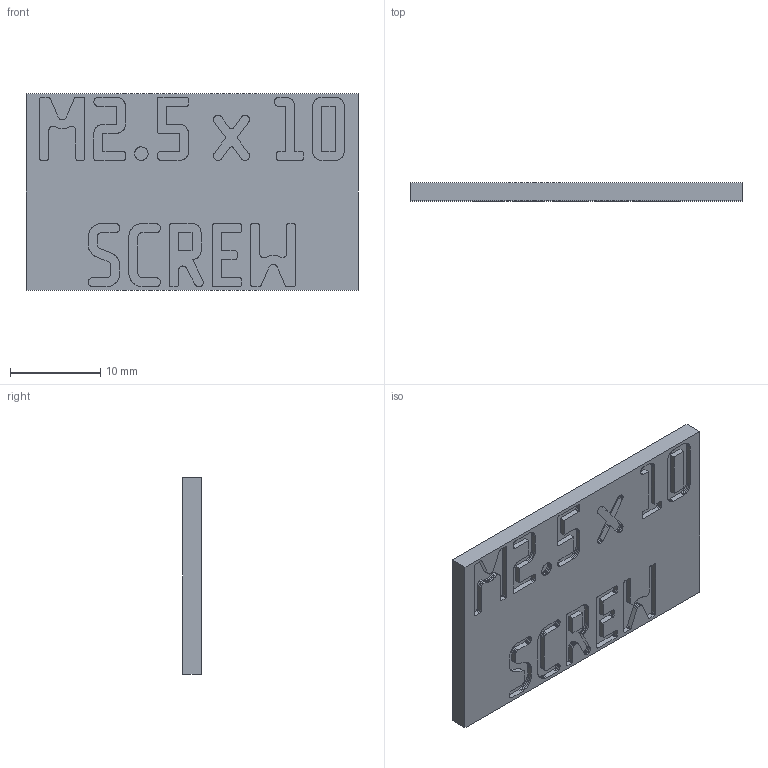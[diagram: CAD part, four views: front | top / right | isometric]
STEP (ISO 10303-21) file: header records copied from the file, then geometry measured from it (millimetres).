
FILE_DESCRIPTION(('Open CASCADE Model'),'2;1');
FILE_NAME('Open CASCADE Shape Model','2026-11-03T17:10:01',('Author'),( 'Open CASCADE'),'Open CASCADE STEP processor 8.0','build123d', 'Unknown');
FILE_SCHEMA(('AUTOMOTIVE_DESIGN { 1 0 10303 214 1 1 1 1 }'));
Length unit declared in the file: millimetre
Products named in the file (2): =>[0:1:1:2]; COMPOUND
Assembly tree (1 placements, depth 2):
  =>[0:1:1:2]
    COMPOUND
Bounding box: 36.8 x 2 x 21.8 mm (x, y, z)
Volume: 1509.1 mm3; surface area: 2027.5 mm2
Topology: 1 solids, 1 shells, 1233 faces, 3651 edges, 2434 vertices
Faces by surface type: plane 1233
Entity records: 87816 total; most frequent: CARTESIAN_POINT 14622, DIRECTION 13423, LINE 10953, VECTOR 10953, ORIENTED_EDGE 7302, PCURVE 7302, DEFINITIONAL_REPRESENTATION 7302, EDGE_CURVE 3651
